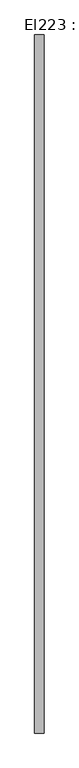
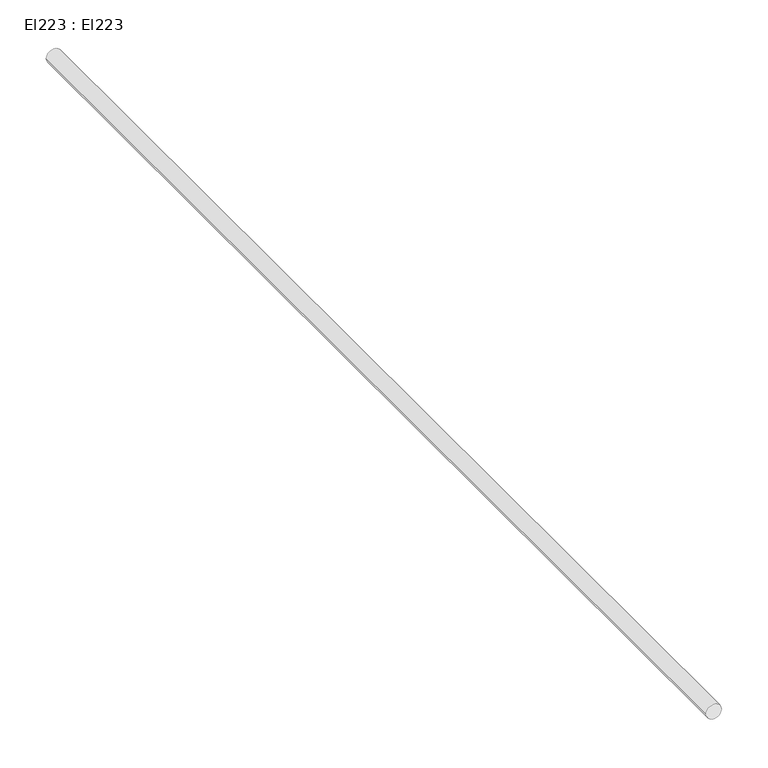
"""IFC4 building model written with IfcOpenShell, lengths in millimetres: cable carrier segment geometry, El223 : El223."""

from ifc_helpers import new_model, si_unit, point, frame, frame_2d, origin, place, context, project, spatial, circle_curve, trimmed, segment, composite_curve, outline, extrude, source, transform, mapped, element, save


def el223_el223_ae45e41f(model_context):
    return source(origin(), model_context, "Body", "SweptSolid", [
        extrude(outline(composite_curve([segment(trimmed(circle_curve(frame_2d((2950.0, 13445.0)), 9.5), [point((2950.0, 13435.5))], [point((2950.0, 13454.5))], False, "CARTESIAN"), True, "CONTINUOUS"), segment(trimmed(circle_curve(frame_2d((2950.0, 13445.0)), 9.5), [point((2950.0, 13454.5))], [point((2950.0, 13435.5))], False, "CARTESIAN"), True, "CONTINUOUS")], self_intersect=False)), frame((0.0, 23871.295, 0.0), z_axis=(0.0, 1.0, 0.0), x_axis=(0.0, 0.0, 1.0)), (0.0, 0.0, 1.0), 1420.01),
    ])


if __name__ == "__main__":
    model = new_model("IFC4")
    model_context = context("Model", 3, world=origin())
    ifc_project = project(units=[si_unit("LENGTHUNIT", "METRE", prefix="MILLI")], contexts=[model_context])
    site = spatial("IfcSite", under=ifc_project)
    building = spatial("IfcBuilding", under=site)
    placement = place(None, origin())
    el223_el223_shape = el223_el223_ae45e41f(model_context)
    element("IfcCableCarrierSegment", 1, ObjectType="El223 : El223", at=placement, inside=building, context=model_context, shape_type="MappedRepresentation", body=[
        mapped(el223_el223_shape, transform((0.0, 0.0, 0.0), x_axis=(1.0, 0.0, 0.0), y_axis=(0.0, 1.0, 0.0), z_axis=(0.0, 0.0, 1.0))),
    ])
    save(model, "model.ifc")
